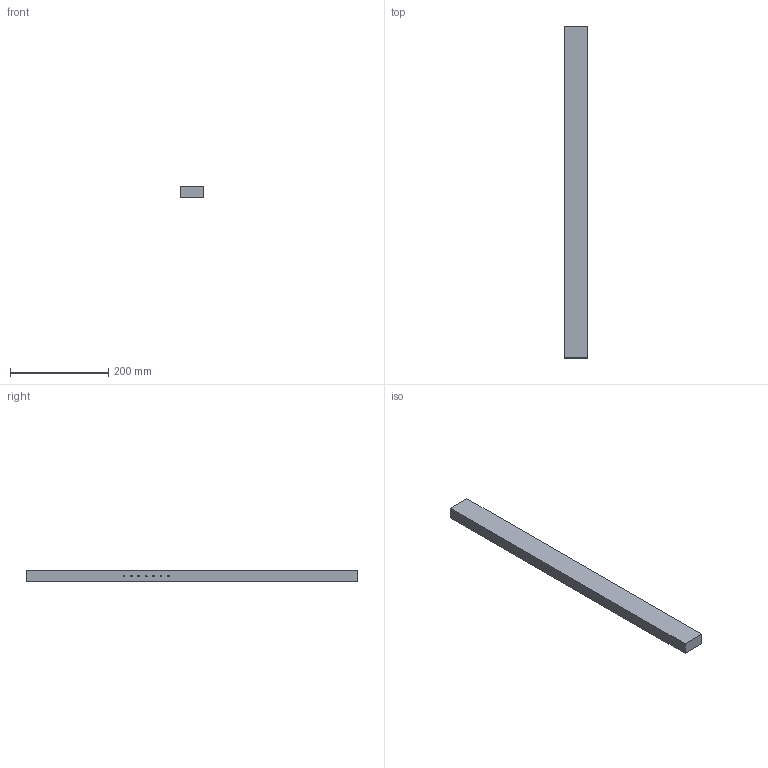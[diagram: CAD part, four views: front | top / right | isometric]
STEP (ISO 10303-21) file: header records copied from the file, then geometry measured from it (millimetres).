
FILE_DESCRIPTION (( 'STEP AP203' ), '1' );
FILE_NAME ('Tasseau_677_Deflecteur.STEP', '2026-06-24T07:29:50', ( '' ), ( '' ), 'SwSTEP 2.0', 'SolidWorks 2024', '' );
FILE_SCHEMA (( 'CONFIG_CONTROL_DESIGN' ));
Length unit declared in the file: millimetre
Products named in the file (1): Tasseau_677_Deflecteur
Bounding box: 48 x 677 x 24 mm (x, y, z)
Volume: 776671.3 mm3; surface area: 103351.8 mm2
Topology: 1 solids, 1 shells, 13 faces, 33 edges, 22 vertices
Faces by surface type: cylinder 7, plane 6
Full cylindrical faces by diameter (mm): 3.5 x7
Entity records: 469 total; most frequent: DIRECTION 68, CARTESIAN_POINT 62, ORIENTED_EDGE 52, EDGE_LOOP 34, AXIS2_PLACEMENT_3D 28, EDGE_CURVE 26, VERTEX_POINT 22, FACE_OUTER_BOUND 20
